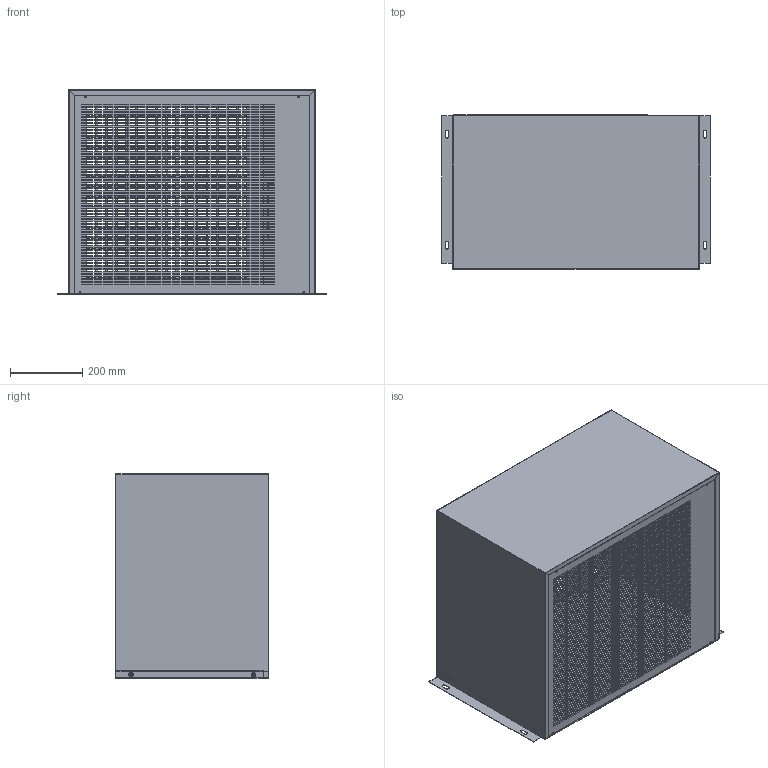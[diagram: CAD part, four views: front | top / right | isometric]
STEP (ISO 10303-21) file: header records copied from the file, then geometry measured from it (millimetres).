
FILE_DESCRIPTION(/* description */ ('Unknown'),/* implementation_level */ '2;1');
FILE_NAME(/* name */ 'RC10',/* time_stamp */ '2018-04-19T17:24:59+02:00',/* author */ ('Unknown'),/* organization */ ('Unknown'),/* preprocessor_version */ 'ST-DEVELOPER v16.7',/* originating_system */ 'DEX',/* authorisation */ $);
FILE_SCHEMA (('CONFIG_CONTROL_DESIGN'));
Products named in the file (8): 28-181+20400; 28-132+8160; 39-81_oa_0; 28-182+8150; 28-183+8151; 28-186+8157; 28-184+8153; 28-185+8155
Assembly tree (7 placements, depth 3):
  28-181+20400
    28-132+8160
    39-81_oa_0
      28-182+8150
      28-183+8151
      28-186+8157
      28-184+8153
      28-185+8155
Bounding box: 746 x 426.7 x 567.06 mm (x, y, z)
Volume: 1641049.4 mm3; surface area: 3731616.1 mm2
Topology: 6 solids, 6 shells, 4318 faces, 12813 edges, 8491 vertices
Faces by surface type: plane 4064, cylinder 218, bspline 36
Full cylindrical faces by diameter (mm): 2.7 x30, 4 x5, 4.2 x12, 5 x11, 6 x9, 6.001 x4, 12.001 x4, 12.01 x3, 20 x2, 30 x2
Entity records: 145658 total; most frequent: CARTESIAN_POINT 26210, ORIENTED_EDGE 25352, DIRECTION 21632, EDGE_CURVE 12676, LINE 12236, VECTOR 12236, VERTEX_POINT 8436, EDGE_LOOP 6464
